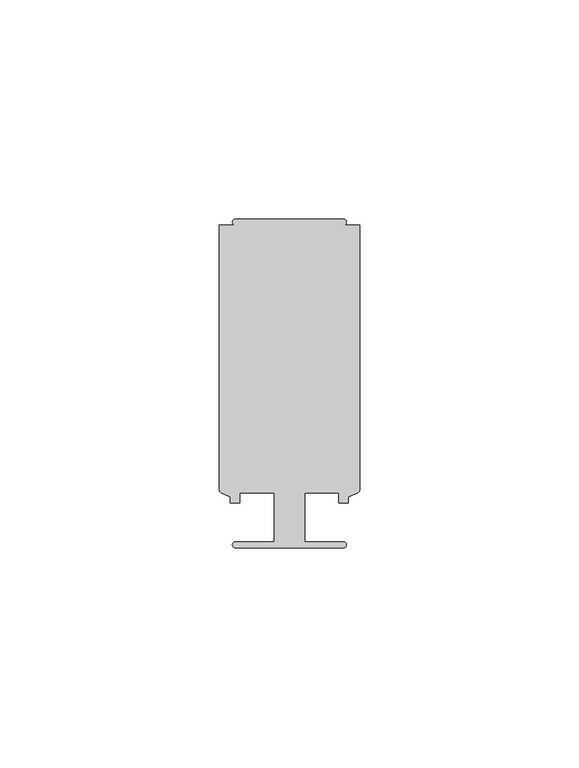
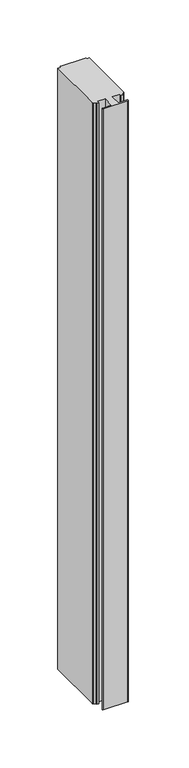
"""IFC4 building model written with IfcOpenShell, lengths in millimetres: member geometry, Прямоугольный импост : 2-AMG-1-Профиль 26Х75 Средний."""

from ifc_helpers import new_model, si_unit, point, frame, frame_2d, origin, place, context, project, spatial, polyline, circle_curve, trimmed, segment, composite_curve, outline, extrude, source, transform, mapped, element, save


def member_bf523807(model_context):
    return source(origin(), model_context, "Body", "SweptSolid", [
        extrude(outline(composite_curve([segment(polyline([(12.2976562, -37.5), (-12.3023438, -37.5)]), True, "CONTINUOUS"), segment(trimmed(circle_curve(frame_2d((-12.3023438, -36.8)), 0.7), [point((-12.3023438, -37.5))], [point((-12.3023438, -36.1))], False, "CARTESIAN"), True, "CONTINUOUS"), segment(polyline([(-12.3023438, -36.1), (-3.5023438, -36.1), (-3.5023438, -25.0), (-11.2993767, -25.0), (-11.2993767, -27.25), (-13.4493278, -27.25), (-13.4493278, -25.836597), (-15.5219415, -24.9333875)]), True, "CONTINUOUS"), segment(trimmed(circle_curve(frame_2d((-15.2023438, -24.2)), 0.8), [point((-15.5219415, -24.9333875))], [point((-16.0023438, -24.2))], False, "CARTESIAN"), True, "CONTINUOUS"), segment(polyline([(-16.0023438, -24.2), (-16.0023438, 36.1), (-12.3004766, 36.1)]), True, "CONTINUOUS"), segment(trimmed(circle_curve(frame_2d((-12.3004766, 36.8)), 0.7), [point((-12.3004766, 36.1))], [point((-12.3004766, 37.5))], False, "CARTESIAN"), True, "CONTINUOUS"), segment(polyline([(-12.3004766, 37.5), (12.295789, 37.5)]), True, "CONTINUOUS"), segment(trimmed(circle_curve(frame_2d((12.295789, 36.8)), 0.7), [point((12.295789, 37.5))], [point((12.295789, 36.1))], False, "CARTESIAN"), True, "CONTINUOUS"), segment(polyline([(12.295789, 36.1), (15.9976562, 36.1), (15.9976562, -24.2)]), True, "CONTINUOUS"), segment(trimmed(circle_curve(frame_2d((15.1976562, -24.2)), 0.8), [point((15.9976562, -24.2))], [point((15.5172539, -24.9333875))], False, "CARTESIAN"), True, "CONTINUOUS"), segment(polyline([(15.5172539, -24.9333875), (13.4446403, -25.836597), (13.4446403, -27.25), (11.2193767, -27.25), (11.2193767, -25.0), (3.4976562, -25.0), (3.4976562, -36.1), (12.2976562, -36.1)]), True, "CONTINUOUS"), segment(trimmed(circle_curve(frame_2d((12.2976562, -36.8)), 0.7), [point((12.2976562, -36.1))], [point((12.2976562, -37.5))], False, "CARTESIAN"), True, "CONTINUOUS")], self_intersect=False)), frame((0.0, 0.0, -642.8872577), z_axis=(0.0, 0.0, 1.0), x_axis=(1.0, 0.0, 0.0)), (0.0, 0.0, 1.0), 642.8872577),
    ])


if __name__ == "__main__":
    model = new_model("IFC4")
    model_context = context("Model", 3, world=origin())
    ifc_project = project(units=[si_unit("LENGTHUNIT", "METRE", prefix="MILLI")], contexts=[model_context])
    site = spatial("IfcSite", under=ifc_project)
    building = spatial("IfcBuilding", under=site)
    placement = place(None, origin())
    member_shape = member_bf523807(model_context)
    element("IfcMember", 1, ObjectType="Прямоугольный импост : 2-AMG-1-Профиль 26Х75 Средний", at=placement, inside=building, context=model_context, shape_type="MappedRepresentation", body=[
        mapped(member_shape, transform((0.0, 0.0, 0.0), x_axis=(1.0, 0.0, 0.0), y_axis=(0.0, 1.0, 0.0), z_axis=(0.0, 0.0, 1.0))),
    ])
    save(model, "model.ifc")
